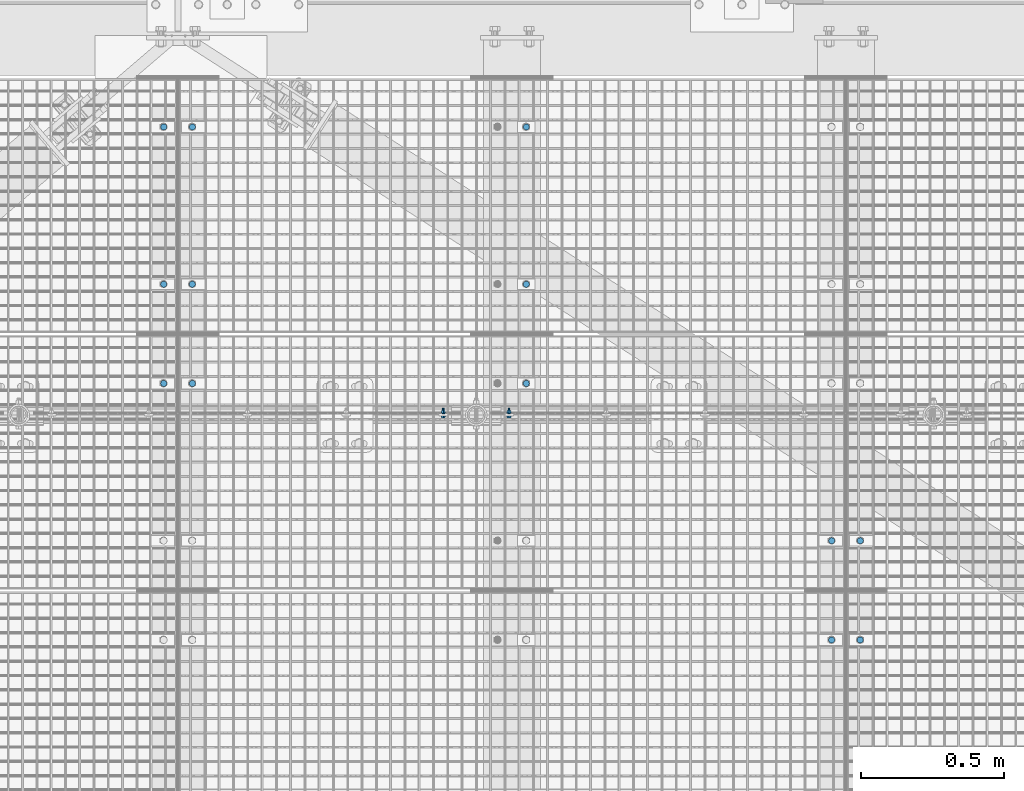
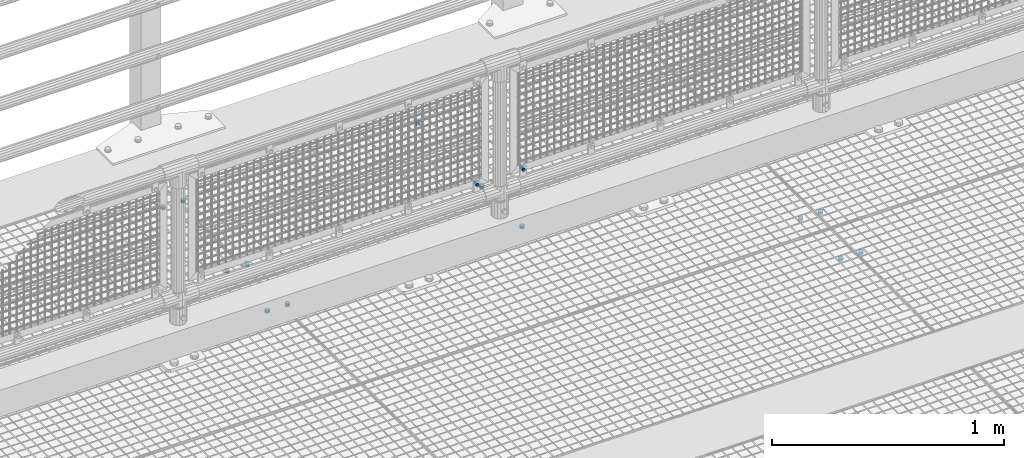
# One storey, part 89 of 1530: 15 mechanical fasteners.
"""IFC2X3 building model written with IfcOpenShell, lengths in millimetres."""

from ifc_helpers import new_model, si_unit, frame, origin_with_axes, place, context, subcontext, project, spatial, faceted_brep, source, transform, mapped, material, type_object, element, save


model = new_model("IFC2X3")

# Units and contexts
model_context = context("Model", 3, precision=1e-05, world=origin_with_axes())
body_context = subcontext(model_context, "Body", "Model", "MODEL_VIEW")
ifc_project = project(units=[si_unit("LENGTHUNIT", "METRE", prefix="MILLI"), si_unit("AREAUNIT", "SQUARE_METRE"), si_unit("VOLUMEUNIT", "CUBIC_METRE"), si_unit("MASSUNIT", "GRAM", prefix="KILO"), si_unit("TIMEUNIT", "SECOND"), si_unit("PLANEANGLEUNIT", "RADIAN"), si_unit("SOLIDANGLEUNIT", "STERADIAN"), si_unit("THERMODYNAMICTEMPERATUREUNIT", "DEGREE_CELSIUS"), si_unit("LUMINOUSINTENSITYUNIT", "LUMEN")], contexts=[model_context])

# Site, building, storey
site_placement = place(None, origin_with_axes())
site = spatial("IfcSite", under=ifc_project, at=site_placement, Name="Brattvåg", CompositionType="ELEMENT")
building_placement = place(site_placement, origin_with_axes())
building = spatial("IfcBuilding", under=site, at=building_placement, Name="Undefined", CompositionType="ELEMENT")
storey_placement = place(building_placement, origin_with_axes())
storey = spatial("IfcBuildingStorey", under=building, at=storey_placement, Name="Undefined", CompositionType="ELEMENT", Elevation=0.0)

# Mechanical fasteners
ifc_material = material(Name="8")
mechanical_fastener_type = type_object("IfcMechanicalFastenerType", Name="Bolt assembly")
shared_shape_1 = source(origin_with_axes(), body_context, "Body", "Brep", [
    faceted_brep([(11.0, -4.99999999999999, 0.0), (9.52627944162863, -4.99999999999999, 5.50000000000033), (5.49999999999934, -4.99999999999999, 9.5262794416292), (-1.13996957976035e-12, -4.99999999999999, 11.0), (-5.50000000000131, -4.99999999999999, 9.52627944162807), (-9.52627944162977, -4.99999999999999, 5.49999999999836), (-11.0, -4.99999999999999, -2.27993915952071e-12), (-9.5262794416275, -4.99999999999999, -5.5000000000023), (-5.49999999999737, -4.99999999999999, -9.52627944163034), (3.40769628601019e-12, -4.99999999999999, -11.0), (5.50000000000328, -4.99999999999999, -9.52627944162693), (9.52627944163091, -4.99999999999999, -5.49999999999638), (9.52627944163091, 10.1, -5.49999999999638), (5.50000000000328, 10.1, -9.52627944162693), (3.40769628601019e-12, 10.1, -11.0), (-5.49999999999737, 10.1, -9.52627944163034), (-9.5262794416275, 10.1, -5.5000000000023), (-11.0, 10.1, -2.27993915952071e-12), (-9.52627944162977, 10.1, 5.49999999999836), (-5.50000000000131, 10.1, 9.52627944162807), (-1.13996957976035e-12, 10.1, 11.0), (5.49999999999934, 10.1, 9.5262794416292), (9.52627944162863, 10.1, 5.50000000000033), (11.0, 10.1, 0.0)], [[[0, 1, 2, 3, 4, 5, 6, 7, 8, 9, 10, 11]], [[12, 13, 14, 15, 16, 17, 18, 19, 20, 21, 22, 23]], [[0, 23, 22, 1]], [[1, 22, 21, 2]], [[2, 21, 20, 3]], [[3, 20, 19, 4]], [[4, 19, 18, 5]], [[5, 18, 17, 6]], [[6, 17, 16, 7]], [[7, 16, 15, 8]], [[8, 15, 14, 9]], [[9, 14, 13, 10]], [[10, 13, 12, 11]], [[11, 12, 23, 0]]]),
])
for number, where, z_axis, x_axis, name in (
    (1, (9964.00477935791, 7224.98931152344, -35.0), (0.0, 1.0, 0.0), (1.0, 0.0, 0.0), "Bolt assembly"),
    (2, (9964.00477935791, 6877.99411010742, -35.0), (0.0, 1.0, 0.0), (1.0, 0.0, 0.0), "Bolt assembly"),
    (3, (7628.00477935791, 8121.98931152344, -35.0), (0.0, 1.0, 0.0), (1.0, 0.0, 0.0), "Bolt assembly"),
    (4, (7628.00477935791, 8671.99411010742, -35.0), (0.0, 1.0, 0.0), (1.0, 0.0, 0.0), "Bolt assembly"),
    (5, (8796.01456069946, 8671.99565124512, -35.0), (0.0, -1.0, 0.0), (-1.0, 1.99999855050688e-09, 0.0), "Bolt assembly"),
    (6, (8796.01192543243, 8121.99, -35.0), (0.0, -1.0, 0.0), (-1.0, 1.99999855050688e-09, 0.0), "Bolt assembly"),
    (7, (7628.00477935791, 7774.99411010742, -35.0), (0.0, 1.0, 0.0), (1.0, 0.0, 0.0), "Bolt assembly"),
    (8, (9864.01487731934, 7224.9904864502, -35.0), (0.0, -1.0, 0.0), (-1.0, 1.99999855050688e-09, 0.0), "Bolt assembly"),
    (9, (8796.01456069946, 7774.99565124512, -35.0), (0.0, -1.0, 0.0), (-1.0, 1.99999855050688e-09, 0.0), "Bolt assembly"),
    (10, (9864.01487731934, 6877.99411010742, -35.0), (0.0, -1.0, 0.0), (-1.0, 1.99999855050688e-09, 0.0), "Bolt assembly"),
    (11, (7528.01487731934, 8671.99411010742, -35.0), (0.0, -1.0, 0.0), (-1.0, 1.99999855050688e-09, 0.0), "Bolt assembly"),
    (12, (7528.01487731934, 8121.9904864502, -35.0), (0.0, -1.0, 0.0), (-1.0, 1.99999855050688e-09, 0.0), "Bolt assembly"),
    (13, (7528.01487731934, 7774.99411010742, -35.0), (0.0, -1.0, 0.0), (-1.0, 1.99999855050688e-09, 0.0), "Bolt assembly"),
):
    element("IfcMechanicalFastener", number, at=place(storey_placement, frame(where, z_axis=z_axis, x_axis=x_axis)), inside=storey, type_object=mechanical_fastener_type, material=ifc_material, Name=name, NominalDiameter=20.0, NominalLength=15.0, context=body_context, shape_type="MappedRepresentation", body=[
        mapped(shared_shape_1, transform((0.0, 0.0, 0.0))),
    ])
shared_shape_2 = source(origin_with_axes(), body_context, "Body", "Brep", [
    faceted_brep([(7.50555349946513, -6.899000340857, 0.0), (3.75277674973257, -6.899000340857, 6.5), (-3.75277674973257, -6.899000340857, 6.5), (-7.50555349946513, -6.899000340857, 9.19165206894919e-16), (-3.75277674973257, -6.899000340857, -6.5), (3.75277674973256, -6.899000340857, -6.5), (3.75277674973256, -1.59900015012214, -6.5), (-3.75277674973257, -1.59900015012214, -6.5), (-7.50555349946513, -1.59900015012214, 9.19165206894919e-16), (-3.75277674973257, -1.59900015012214, 6.5), (3.75277674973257, -1.59900015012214, 6.5), (7.50555349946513, -1.59900015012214, 0.0), (4.0, -1.59900015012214, 0.0), (3.46410161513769, -1.59900015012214, 2.00000000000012), (1.99999999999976, -1.59900015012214, 3.46410161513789), (-4.14534392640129e-13, -1.59900015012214, 4.0), (-2.00000000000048, -1.59900015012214, 3.46410161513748), (-3.4641016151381, -1.59900015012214, 1.9999999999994), (-4.0, -1.59900015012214, -8.29068785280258e-13), (-3.46410161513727, -1.59900015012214, -2.00000000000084), (-1.99999999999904, -1.59900015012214, -3.46410161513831), (1.23916228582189e-12, -1.59900015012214, -4.0), (2.00000000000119, -1.59900015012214, -3.46410161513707), (3.46410161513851, -1.59900015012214, -1.99999999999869), (3.46410161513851, 28.4009998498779, -1.99999999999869), (2.00000000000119, 28.4009998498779, -3.46410161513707), (1.23916228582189e-12, 28.4009998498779, -4.0), (-1.99999999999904, 28.4009998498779, -3.46410161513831), (-3.46410161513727, 28.4009998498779, -2.00000000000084), (-4.0, 28.4009998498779, -8.29068785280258e-13), (-3.4641016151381, 28.4009998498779, 1.9999999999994), (-2.00000000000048, 28.4009998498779, 3.46410161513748), (-4.14534392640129e-13, 28.4009998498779, 4.0), (1.99999999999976, 28.4009998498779, 3.46410161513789), (3.46410161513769, 28.4009998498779, 2.00000000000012), (4.0, 28.4009998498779, 0.0), (8.5, -1.59900015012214, 0.0), (7.36121593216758, -1.59900015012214, 4.25000000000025), (4.24999999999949, -1.59900015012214, 7.36121593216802), (-8.80885584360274e-13, -1.59900015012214, 8.5), (-4.25000000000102, -1.59900015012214, 7.36121593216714), (-7.36121593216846, -1.59900015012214, 4.24999999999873), (-8.5, -1.59900015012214, -1.76177116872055e-12), (-7.3612159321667, -1.59900015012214, -4.25000000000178), (-4.24999999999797, -1.59900015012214, -7.3612159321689), (2.63321985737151e-12, -1.59900015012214, -8.5), (4.25000000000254, -1.59900015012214, -7.36121593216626), (7.36121593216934, -1.59900015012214, -4.24999999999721), (7.36121593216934, 0.000999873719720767, -4.24999999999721), (4.25000000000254, 0.000999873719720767, -7.36121593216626), (2.63321985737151e-12, 0.000999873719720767, -8.5), (-4.24999999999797, 0.000999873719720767, -7.3612159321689), (-7.3612159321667, 0.000999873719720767, -4.25000000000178), (-8.5, 0.000999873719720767, -1.76177116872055e-12), (-7.36121593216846, 0.000999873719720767, 4.24999999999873), (-4.25000000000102, 0.000999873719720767, 7.36121593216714), (-8.80885584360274e-13, 0.000999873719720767, 8.5), (4.24999999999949, 0.000999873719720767, 7.36121593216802), (7.36121593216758, 0.000999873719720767, 4.25000000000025), (8.5, 0.000999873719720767, 0.0), (8.5, 11.5044159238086, 0.0), (7.36121593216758, 11.5044159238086, 4.25000000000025), (4.24999999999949, 11.5044159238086, 7.36121593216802), (-8.80885584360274e-13, 11.5044159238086, 8.5), (-4.25000000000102, 11.5044159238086, 7.36121593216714), (-7.36121593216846, 11.5044159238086, 4.24999999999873), (-8.5, 11.5044159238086, -1.76177116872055e-12), (-7.3612159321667, 11.5044159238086, -4.25000000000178), (-4.24999999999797, 11.5044159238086, -7.3612159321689), (2.63321985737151e-12, 11.5044159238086, -8.5), (4.25000000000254, 11.5044159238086, -7.36121593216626), (7.36121593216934, 11.5044159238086, -4.24999999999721), (7.36121593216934, 13.1044159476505, -4.24999999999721), (4.25000000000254, 13.1044159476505, -7.36121593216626), (2.63321985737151e-12, 13.1044159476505, -8.5), (-4.24999999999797, 13.1044159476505, -7.3612159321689), (-7.3612159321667, 13.1044159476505, -4.25000000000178), (-8.5, 13.1044159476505, -1.76177116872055e-12), (-7.36121593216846, 13.1044159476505, 4.24999999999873), (-4.25000000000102, 13.1044159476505, 7.36121593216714), (-8.80885584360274e-13, 13.1044159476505, 8.5), (4.24999999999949, 13.1044159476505, 7.36121593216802), (7.36121593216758, 13.1044159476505, 4.25000000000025), (8.5, 13.1044159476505, 0.0), (7.50555349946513, 13.1044159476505, 0.0), (3.75277674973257, 13.1044159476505, 6.5), (-3.75277674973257, 13.1044159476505, 6.5), (-7.50555349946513, 13.1044159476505, 9.19165206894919e-16), (-3.75277674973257, 13.1044159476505, -6.5), (3.75277674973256, 13.1044159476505, -6.5), (3.75277674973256, 19.9044161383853, -6.5), (-3.75277674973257, 19.9044161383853, -6.5), (-7.50555349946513, 19.9044161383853, 9.19165206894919e-16), (-3.75277674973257, 19.9044161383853, 6.5), (3.75277674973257, 19.9044161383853, 6.5), (7.50555349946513, 19.9044161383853, 0.0)], [[[0, 1, 2, 3, 4, 5]], [[6, 7, 8, 9, 10, 11]], [[0, 11, 10, 1]], [[1, 10, 9, 2]], [[2, 9, 8, 3]], [[3, 8, 7, 4]], [[4, 7, 6, 5]], [[5, 6, 11, 0]], [[12, 13, 14, 15, 16, 17, 18, 19, 20, 21, 22, 23]], [[24, 25, 26, 27, 28, 29, 30, 31, 32, 33, 34, 35]], [[12, 35, 34, 13]], [[13, 34, 33, 14]], [[14, 33, 32, 15]], [[15, 32, 31, 16]], [[16, 31, 30, 17]], [[17, 30, 29, 18]], [[18, 29, 28, 19]], [[19, 28, 27, 20]], [[20, 27, 26, 21]], [[21, 26, 25, 22]], [[22, 25, 24, 23]], [[23, 24, 35, 12]], [[36, 37, 38, 39, 40, 41, 42, 43, 44, 45, 46, 47]], [[48, 49, 50, 51, 52, 53, 54, 55, 56, 57, 58, 59]], [[36, 59, 58, 37]], [[37, 58, 57, 38]], [[38, 57, 56, 39]], [[39, 56, 55, 40]], [[40, 55, 54, 41]], [[41, 54, 53, 42]], [[42, 53, 52, 43]], [[43, 52, 51, 44]], [[44, 51, 50, 45]], [[45, 50, 49, 46]], [[46, 49, 48, 47]], [[47, 48, 59, 36]], [[60, 61, 62, 63, 64, 65, 66, 67, 68, 69, 70, 71]], [[72, 73, 74, 75, 76, 77, 78, 79, 80, 81, 82, 83]], [[60, 83, 82, 61]], [[61, 82, 81, 62]], [[62, 81, 80, 63]], [[63, 80, 79, 64]], [[64, 79, 78, 65]], [[65, 78, 77, 66]], [[66, 77, 76, 67]], [[67, 76, 75, 68]], [[68, 75, 74, 69]], [[69, 74, 73, 70]], [[70, 73, 72, 71]], [[71, 72, 83, 60]], [[84, 85, 86, 87, 88, 89]], [[90, 91, 92, 93, 94, 95]], [[84, 95, 94, 85]], [[85, 94, 93, 86]], [[86, 93, 92, 87]], [[87, 92, 91, 88]], [[88, 91, 90, 89]], [[89, 90, 95, 84]]]),
    faceted_brep([(5.0, 0.100999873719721, 0.0), (4.33012701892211, 0.100999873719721, 2.50000000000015), (2.4999999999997, 0.100999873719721, 4.33012701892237), (-5.18167990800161e-13, 0.100999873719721, 5.0), (-2.5000000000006, 0.100999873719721, 4.33012701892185), (-4.33012701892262, 0.100999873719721, 2.49999999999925), (-5.0, 0.100999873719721, -1.03633598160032e-12), (-4.33012701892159, 0.100999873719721, -2.50000000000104), (-2.49999999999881, 0.100999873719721, -4.33012701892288), (1.54895285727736e-12, 0.100999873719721, -5.0), (2.50000000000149, 0.100999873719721, -4.33012701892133), (4.33012701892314, 0.100999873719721, -2.49999999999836), (4.33012701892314, 8.10099988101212, -2.49999999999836), (2.50000000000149, 8.10099988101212, -4.33012701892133), (1.54895285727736e-12, 8.10099988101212, -5.0), (-2.49999999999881, 8.10099988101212, -4.33012701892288), (-4.33012701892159, 8.10099988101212, -2.50000000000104), (-5.0, 8.10099988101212, -1.03633598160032e-12), (-4.33012701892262, 8.10099988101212, 2.49999999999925), (-2.5000000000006, 8.10099988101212, 4.33012701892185), (-5.18167990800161e-13, 8.10099988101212, 5.0), (2.4999999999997, 8.10099988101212, 4.33012701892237), (4.33012701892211, 8.10099988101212, 2.50000000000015), (5.0, 8.10099988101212, 0.0), (5.0, 8.40441592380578, 0.0), (4.33012701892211, 8.40441592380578, 2.50000000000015), (2.4999999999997, 8.40441592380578, 4.33012701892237), (-5.18167990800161e-13, 8.40441592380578, 5.0), (-2.5000000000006, 8.40441592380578, 4.33012701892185), (-4.33012701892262, 8.40441592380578, 2.49999999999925), (-5.0, 8.40441592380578, -1.03633598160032e-12), (-4.33012701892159, 8.40441592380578, -2.50000000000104), (-2.49999999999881, 8.40441592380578, -4.33012701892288), (1.54895285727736e-12, 8.40441592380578, -5.0), (2.50000000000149, 8.40441592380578, -4.33012701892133), (4.33012701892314, 8.40441592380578, -2.49999999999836), (4.33012701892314, 11.5044159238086, -2.49999999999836), (2.50000000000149, 11.5044159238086, -4.33012701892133), (1.54895285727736e-12, 11.5044159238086, -5.0), (-2.49999999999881, 11.5044159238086, -4.33012701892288), (-4.33012701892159, 11.5044159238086, -2.50000000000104), (-5.0, 11.5044159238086, -1.03633598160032e-12), (-4.33012701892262, 11.5044159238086, 2.49999999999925), (-2.5000000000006, 11.5044159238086, 4.33012701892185), (-5.18167990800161e-13, 11.5044159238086, 5.0), (2.4999999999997, 11.5044159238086, 4.33012701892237), (4.33012701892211, 11.5044159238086, 2.50000000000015), (5.0, 11.5044159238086, 0.0)], [[[0, 1, 2, 3, 4, 5, 6, 7, 8, 9, 10, 11]], [[12, 13, 14, 15, 16, 17, 18, 19, 20, 21, 22, 23]], [[0, 23, 22, 1]], [[1, 22, 21, 2]], [[2, 21, 20, 3]], [[3, 20, 19, 4]], [[4, 19, 18, 5]], [[5, 18, 17, 6]], [[6, 17, 16, 7]], [[7, 16, 15, 8]], [[8, 15, 14, 9]], [[9, 14, 13, 10]], [[10, 13, 12, 11]], [[11, 12, 23, 0]], [[24, 25, 26, 27, 28, 29, 30, 31, 32, 33, 34, 35]], [[36, 37, 38, 39, 40, 41, 42, 43, 44, 45, 46, 47]], [[24, 47, 46, 25]], [[25, 46, 45, 26]], [[26, 45, 44, 27]], [[27, 44, 43, 28]], [[28, 43, 42, 29]], [[29, 42, 41, 30]], [[30, 41, 40, 31]], [[31, 40, 39, 32]], [[32, 39, 38, 33]], [[33, 38, 37, 34]], [[34, 37, 36, 35]], [[35, 36, 47, 24]]]),
])
mechanical_fastener_1_placement = place(storey_placement, frame((8735.85060882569, 7660.49843978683, 352.299672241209), z_axis=(-1.0, 1.99999855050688e-09, 0.0), x_axis=(0.0, 0.0, 1.0)))
element("IfcMechanicalFastener", 14, at=mechanical_fastener_1_placement, inside=storey, type_object=mechanical_fastener_type, material=ifc_material, Name="Bolt assembly", NominalDiameter=8.0, NominalLength=30.0, context=body_context, shape_type="MappedRepresentation", body=[
    mapped(shared_shape_2, transform((0.0, 0.0, 0.0))),
])
shared_shape_3 = source(origin_with_axes(), body_context, "Body", "Brep", [
    faceted_brep([(7.50555349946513, -6.899000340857, 0.0), (3.75277674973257, -6.899000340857, 6.5), (-3.75277674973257, -6.899000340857, 6.5), (-7.50555349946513, -6.899000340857, 9.19165206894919e-16), (-3.75277674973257, -6.899000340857, -6.5), (3.75277674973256, -6.899000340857, -6.5), (3.75277674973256, -1.59900015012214, -6.5), (-3.75277674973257, -1.59900015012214, -6.5), (-7.50555349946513, -1.59900015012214, 9.19165206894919e-16), (-3.75277674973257, -1.59900015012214, 6.5), (3.75277674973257, -1.59900015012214, 6.5), (7.50555349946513, -1.59900015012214, 0.0), (4.0, -1.59900015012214, 0.0), (3.46410161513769, -1.59900015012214, 2.00000000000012), (1.99999999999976, -1.59900015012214, 3.46410161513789), (-4.14534392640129e-13, -1.59900015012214, 4.0), (-2.00000000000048, -1.59900015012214, 3.46410161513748), (-3.4641016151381, -1.59900015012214, 1.9999999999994), (-4.0, -1.59900015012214, -8.29068785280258e-13), (-3.46410161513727, -1.59900015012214, -2.00000000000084), (-1.99999999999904, -1.59900015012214, -3.46410161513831), (1.23916228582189e-12, -1.59900015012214, -4.0), (2.00000000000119, -1.59900015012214, -3.46410161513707), (3.46410161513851, -1.59900015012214, -1.99999999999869), (3.46410161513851, 28.4009998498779, -1.99999999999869), (2.00000000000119, 28.4009998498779, -3.46410161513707), (1.23916228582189e-12, 28.4009998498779, -4.0), (-1.99999999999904, 28.4009998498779, -3.46410161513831), (-3.46410161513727, 28.4009998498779, -2.00000000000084), (-4.0, 28.4009998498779, -8.29068785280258e-13), (-3.4641016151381, 28.4009998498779, 1.9999999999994), (-2.00000000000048, 28.4009998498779, 3.46410161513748), (-4.14534392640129e-13, 28.4009998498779, 4.0), (1.99999999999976, 28.4009998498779, 3.46410161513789), (3.46410161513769, 28.4009998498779, 2.00000000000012), (4.0, 28.4009998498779, 0.0), (8.5, -1.59900015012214, 0.0), (7.36121593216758, -1.59900015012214, 4.25000000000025), (4.24999999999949, -1.59900015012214, 7.36121593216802), (-8.80885584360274e-13, -1.59900015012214, 8.5), (-4.25000000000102, -1.59900015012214, 7.36121593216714), (-7.36121593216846, -1.59900015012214, 4.24999999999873), (-8.5, -1.59900015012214, -1.76177116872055e-12), (-7.3612159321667, -1.59900015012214, -4.25000000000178), (-4.24999999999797, -1.59900015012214, -7.3612159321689), (2.63321985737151e-12, -1.59900015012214, -8.5), (4.25000000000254, -1.59900015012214, -7.36121593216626), (7.36121593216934, -1.59900015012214, -4.24999999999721), (7.36121593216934, 0.000999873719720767, -4.24999999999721), (4.25000000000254, 0.000999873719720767, -7.36121593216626), (2.63321985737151e-12, 0.000999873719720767, -8.5), (-4.24999999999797, 0.000999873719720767, -7.3612159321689), (-7.3612159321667, 0.000999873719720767, -4.25000000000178), (-8.5, 0.000999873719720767, -1.76177116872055e-12), (-7.36121593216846, 0.000999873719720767, 4.24999999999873), (-4.25000000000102, 0.000999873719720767, 7.36121593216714), (-8.80885584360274e-13, 0.000999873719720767, 8.5), (4.24999999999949, 0.000999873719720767, 7.36121593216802), (7.36121593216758, 0.000999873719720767, 4.25000000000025), (8.5, 0.000999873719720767, 0.0), (8.5, 11.5022147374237, 0.0), (7.36121593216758, 11.5022147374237, 4.25000000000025), (4.24999999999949, 11.5022147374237, 7.36121593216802), (-8.80885584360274e-13, 11.5022147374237, 8.5), (-4.25000000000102, 11.5022147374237, 7.36121593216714), (-7.36121593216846, 11.5022147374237, 4.24999999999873), (-8.5, 11.5022147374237, -1.76177116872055e-12), (-7.3612159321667, 11.5022147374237, -4.25000000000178), (-4.24999999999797, 11.5022147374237, -7.3612159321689), (2.63321985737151e-12, 11.5022147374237, -8.5), (4.25000000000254, 11.5022147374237, -7.36121593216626), (7.36121593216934, 11.5022147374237, -4.24999999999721), (7.36121593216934, 13.1022147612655, -4.24999999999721), (4.25000000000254, 13.1022147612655, -7.36121593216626), (2.63321985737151e-12, 13.1022147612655, -8.5), (-4.24999999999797, 13.1022147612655, -7.3612159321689), (-7.3612159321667, 13.1022147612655, -4.25000000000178), (-8.5, 13.1022147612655, -1.76177116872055e-12), (-7.36121593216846, 13.1022147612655, 4.24999999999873), (-4.25000000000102, 13.1022147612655, 7.36121593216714), (-8.80885584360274e-13, 13.1022147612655, 8.5), (4.24999999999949, 13.1022147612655, 7.36121593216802), (7.36121593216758, 13.1022147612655, 4.25000000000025), (8.5, 13.1022147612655, 0.0), (7.50555349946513, 13.1022147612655, 0.0), (3.75277674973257, 13.1022147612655, 6.5), (-3.75277674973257, 13.1022147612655, 6.5), (-7.50555349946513, 13.1022147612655, 9.19165206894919e-16), (-3.75277674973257, 13.1022147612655, -6.5), (3.75277674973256, 13.1022147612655, -6.5), (3.75277674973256, 19.9022149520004, -6.5), (-3.75277674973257, 19.9022149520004, -6.5), (-7.50555349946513, 19.9022149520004, 9.19165206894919e-16), (-3.75277674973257, 19.9022149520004, 6.5), (3.75277674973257, 19.9022149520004, 6.5), (7.50555349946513, 19.9022149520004, 0.0)], [[[0, 1, 2, 3, 4, 5]], [[6, 7, 8, 9, 10, 11]], [[0, 11, 10, 1]], [[1, 10, 9, 2]], [[2, 9, 8, 3]], [[3, 8, 7, 4]], [[4, 7, 6, 5]], [[5, 6, 11, 0]], [[12, 13, 14, 15, 16, 17, 18, 19, 20, 21, 22, 23]], [[24, 25, 26, 27, 28, 29, 30, 31, 32, 33, 34, 35]], [[12, 35, 34, 13]], [[13, 34, 33, 14]], [[14, 33, 32, 15]], [[15, 32, 31, 16]], [[16, 31, 30, 17]], [[17, 30, 29, 18]], [[18, 29, 28, 19]], [[19, 28, 27, 20]], [[20, 27, 26, 21]], [[21, 26, 25, 22]], [[22, 25, 24, 23]], [[23, 24, 35, 12]], [[36, 37, 38, 39, 40, 41, 42, 43, 44, 45, 46, 47]], [[48, 49, 50, 51, 52, 53, 54, 55, 56, 57, 58, 59]], [[36, 59, 58, 37]], [[37, 58, 57, 38]], [[38, 57, 56, 39]], [[39, 56, 55, 40]], [[40, 55, 54, 41]], [[41, 54, 53, 42]], [[42, 53, 52, 43]], [[43, 52, 51, 44]], [[44, 51, 50, 45]], [[45, 50, 49, 46]], [[46, 49, 48, 47]], [[47, 48, 59, 36]], [[60, 61, 62, 63, 64, 65, 66, 67, 68, 69, 70, 71]], [[72, 73, 74, 75, 76, 77, 78, 79, 80, 81, 82, 83]], [[60, 83, 82, 61]], [[61, 82, 81, 62]], [[62, 81, 80, 63]], [[63, 80, 79, 64]], [[64, 79, 78, 65]], [[65, 78, 77, 66]], [[66, 77, 76, 67]], [[67, 76, 75, 68]], [[68, 75, 74, 69]], [[69, 74, 73, 70]], [[70, 73, 72, 71]], [[71, 72, 83, 60]], [[84, 85, 86, 87, 88, 89]], [[90, 91, 92, 93, 94, 95]], [[84, 95, 94, 85]], [[85, 94, 93, 86]], [[86, 93, 92, 87]], [[87, 92, 91, 88]], [[88, 91, 90, 89]], [[89, 90, 95, 84]]]),
    faceted_brep([(5.0, 0.100999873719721, 0.0), (4.33012701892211, 0.100999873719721, 2.50000000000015), (2.4999999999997, 0.100999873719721, 4.33012701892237), (-5.18167990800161e-13, 0.100999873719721, 5.0), (-2.5000000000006, 0.100999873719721, 4.33012701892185), (-4.33012701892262, 0.100999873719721, 2.49999999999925), (-5.0, 0.100999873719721, -1.03633598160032e-12), (-4.33012701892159, 0.100999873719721, -2.50000000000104), (-2.49999999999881, 0.100999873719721, -4.33012701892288), (1.54895285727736e-12, 0.100999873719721, -5.0), (2.50000000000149, 0.100999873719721, -4.33012701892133), (4.33012701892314, 0.100999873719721, -2.49999999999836), (4.33012701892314, 8.10099988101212, -2.49999999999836), (2.50000000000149, 8.10099988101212, -4.33012701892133), (1.54895285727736e-12, 8.10099988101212, -5.0), (-2.49999999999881, 8.10099988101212, -4.33012701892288), (-4.33012701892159, 8.10099988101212, -2.50000000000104), (-5.0, 8.10099988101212, -1.03633598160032e-12), (-4.33012701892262, 8.10099988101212, 2.49999999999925), (-2.5000000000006, 8.10099988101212, 4.33012701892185), (-5.18167990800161e-13, 8.10099988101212, 5.0), (2.4999999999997, 8.10099988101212, 4.33012701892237), (4.33012701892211, 8.10099988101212, 2.50000000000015), (5.0, 8.10099988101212, 0.0), (5.0, 8.40221473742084, 0.0), (4.33012701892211, 8.40221473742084, 2.50000000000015), (2.4999999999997, 8.40221473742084, 4.33012701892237), (-5.18167990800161e-13, 8.40221473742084, 5.0), (-2.5000000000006, 8.40221473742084, 4.33012701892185), (-4.33012701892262, 8.40221473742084, 2.49999999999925), (-5.0, 8.40221473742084, -1.03633598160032e-12), (-4.33012701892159, 8.40221473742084, -2.50000000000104), (-2.49999999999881, 8.40221473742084, -4.33012701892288), (1.54895285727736e-12, 8.40221473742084, -5.0), (2.50000000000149, 8.40221473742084, -4.33012701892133), (4.33012701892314, 8.40221473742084, -2.49999999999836), (4.33012701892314, 11.5022147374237, -2.49999999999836), (2.50000000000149, 11.5022147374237, -4.33012701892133), (1.54895285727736e-12, 11.5022147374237, -5.0), (-2.49999999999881, 11.5022147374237, -4.33012701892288), (-4.33012701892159, 11.5022147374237, -2.50000000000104), (-5.0, 11.5022147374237, -1.03633598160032e-12), (-4.33012701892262, 11.5022147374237, 2.49999999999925), (-2.5000000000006, 11.5022147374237, 4.33012701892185), (-5.18167990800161e-13, 11.5022147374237, 5.0), (2.4999999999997, 11.5022147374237, 4.33012701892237), (4.33012701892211, 11.5022147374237, 2.50000000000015), (5.0, 11.5022147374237, 0.0)], [[[0, 1, 2, 3, 4, 5, 6, 7, 8, 9, 10, 11]], [[12, 13, 14, 15, 16, 17, 18, 19, 20, 21, 22, 23]], [[0, 23, 22, 1]], [[1, 22, 21, 2]], [[2, 21, 20, 3]], [[3, 20, 19, 4]], [[4, 19, 18, 5]], [[5, 18, 17, 6]], [[6, 17, 16, 7]], [[7, 16, 15, 8]], [[8, 15, 14, 9]], [[9, 14, 13, 10]], [[10, 13, 12, 11]], [[11, 12, 23, 0]], [[24, 25, 26, 27, 28, 29, 30, 31, 32, 33, 34, 35]], [[36, 37, 38, 39, 40, 41, 42, 43, 44, 45, 46, 47]], [[24, 47, 46, 25]], [[25, 46, 45, 26]], [[26, 45, 44, 27]], [[27, 44, 43, 28]], [[28, 43, 42, 29]], [[29, 42, 41, 30]], [[30, 41, 40, 31]], [[31, 40, 39, 32]], [[32, 39, 38, 33]], [[33, 38, 37, 34]], [[34, 37, 36, 35]], [[35, 36, 47, 24]]]),
])
mechanical_fastener_2_placement = place(storey_placement, frame((8505.99974822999, 7660.49888992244, 352.300205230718), z_axis=(-1.0, 1.99999855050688e-09, 0.0), x_axis=(0.0, 0.0, 1.0)))
element("IfcMechanicalFastener", 15, at=mechanical_fastener_2_placement, inside=storey, type_object=mechanical_fastener_type, material=ifc_material, Name="Bolt assembly", NominalDiameter=8.0, NominalLength=30.0, context=body_context, shape_type="MappedRepresentation", body=[
    mapped(shared_shape_3, transform((0.0, 0.0, 0.0))),
])

save(model, "model.ifc")
